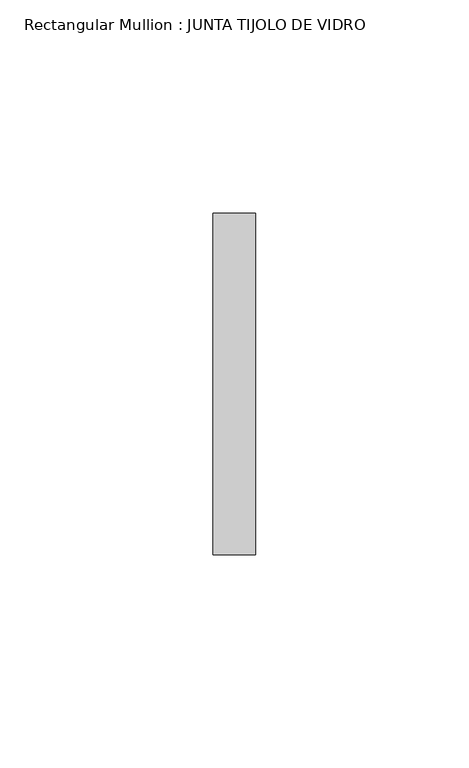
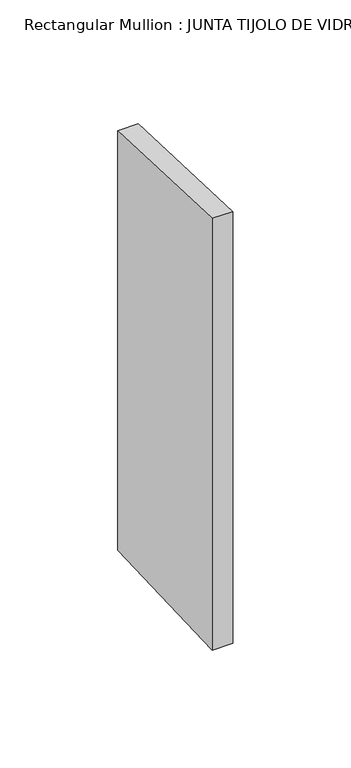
"""IFC4 building model written with IfcOpenShell, lengths in millimetres: member geometry, Rectangular Mullion : JUNTA TIJOLO DE VIDRO."""

from ifc_helpers import new_model, si_unit, frame, origin, place, context, project, spatial, polyline, outline, extrude, source, transform, mapped, element, save


def rectangular_mullion_junta_tijolo_de_vidro_0d08f91d(model_context):
    return source(origin(), model_context, "Body", "SweptSolid", [
        extrude(outline(polyline([(-40.0, 1.5506987), (40.0, -1.5506987), (40.0, -218.7561819), (-40.0, -221.8575793), (-40.0, 1.5506987)])), frame((-5.0, 0.0, 0.0), z_axis=(1.0, 0.0, 0.0), x_axis=(0.0, 1.0, 0.0)), (0.0, 0.0, 1.0), 10.0),
    ])


if __name__ == "__main__":
    model = new_model("IFC4")
    model_context = context("Model", 3, world=origin())
    ifc_project = project(units=[si_unit("LENGTHUNIT", "METRE", prefix="MILLI")], contexts=[model_context])
    site = spatial("IfcSite", under=ifc_project)
    building = spatial("IfcBuilding", under=site)
    placement = place(None, origin())
    rectangular_mullion_junta_tijolo_de_vidro_shape = rectangular_mullion_junta_tijolo_de_vidro_0d08f91d(model_context)
    element("IfcMember", 1, ObjectType="Rectangular Mullion : JUNTA TIJOLO DE VIDRO", at=placement, inside=building, context=model_context, shape_type="MappedRepresentation", body=[
        mapped(rectangular_mullion_junta_tijolo_de_vidro_shape, transform((0.0, 0.0, 0.0), x_axis=(1.0, 0.0, 0.0), y_axis=(0.0, 1.0, 0.0), z_axis=(0.0, 0.0, 1.0))),
    ])
    save(model, "model.ifc")
